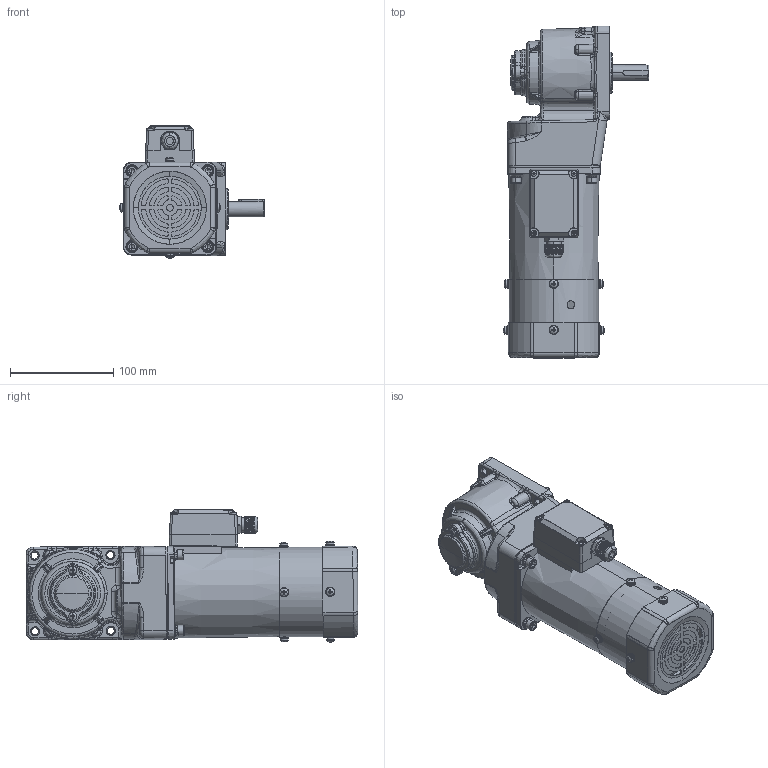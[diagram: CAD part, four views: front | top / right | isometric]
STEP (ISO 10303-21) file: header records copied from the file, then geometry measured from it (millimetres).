
FILE_DESCRIPTION (( 'STEP AP203' ), '1' );
FILE_NAME ('5RK90GU-CMFT(5GU3RT-180RT)ÐÂ.STEP', '2023-08-18T05:51:26', ( 'Windows User' ), ( 'P R C' ), 'SwSTEP 2.0', 'SolidWorks 2019', '' );
FILE_SCHEMA (( 'CONFIG_CONTROL_DESIGN' ));
Length unit declared in the file: millimetre
Products named in the file (10): ZD-5GU50RC-505-003______^5RK90GU-CMFT(5GU3RT-180RT)ÐÂ(2)_5RK90GU-CMFT(5GU3RT-180RT)ÐÂ; 5RK90GU-CMFT(5GU3RT-180RT)陔; cross recessed pan head screws gb_GB_CROSS_SCREWS_TYPE1 M4X6-6  H type-N^5RK90GU-CMFT(5GU3RT-180RT)ÐÂ(2)_5RK90GU-CMFT(5GU3RT-180RT)ÐÂ; 5RK90GU-CMFT(5GU3RT-180RT)陔(2)^5RK90GU-CMFT(5GU3RT-180RT)陔; 90RT____________^5RK90GU-CMFT(5GU3RT-180RT)ÐÂ(2)_5RK90GU-CMFT(5GU3RT-180RT)ÐÂ; zd-5gu-50rc-504-001m#________ 2021-12-07 - ____^5RK90GU-CMFT(5GU3RT-180RT)ÐÂ(2)_5RK90GU-CMFT(5GU3RT-180RT)ÐÂ; hexagon socket head cap screws gb_GB_FASTENER_SCREWS_HSHCS M5X12-N^5RK90GU-CMFT(5GU3RT-180RT)ÐÂ(2)_5RK90GU-CMFT(5GU3RT-180RT)ÐÂ; 90____^5RK90GU-CMFT(5GU3RT-180RT)陔(2)_5RK90GU-CMFT(5GU3RT-180RT)陔; 5RK90GU-CMFT(5GU3RT-180RT)^5RK90GU-CMFT(5GU3RT-180RT)ÐÂ(2)_5RK90GU-CMFT(5GU3RT-180RT)ÐÂ; 90__________^5RK90GU-CMFT(5GU3RT-180RT)陔(2)_5RK90GU-CMFT(5GU3RT-180RT)陔
Assembly tree (13 placements, depth 3):
  5RK90GU-CMFT(5GU3RT-180RT)陔
    5RK90GU-CMFT(5GU3RT-180RT)陔(2)^5RK90GU-CMFT(5GU3RT-180RT)陔
      zd-5gu-50rc-504-001m#________ 2021-12-07 - ____^5RK90GU-CMFT(5GU3RT-180RT)ÐÂ(2)_5RK90GU-CMFT(5GU3RT-180RT)ÐÂ
      90__________^5RK90GU-CMFT(5GU3RT-180RT)陔(2)_5RK90GU-CMFT(5GU3RT-180RT)陔
      90____^5RK90GU-CMFT(5GU3RT-180RT)陔(2)_5RK90GU-CMFT(5GU3RT-180RT)陔
      ZD-5GU50RC-505-003______^5RK90GU-CMFT(5GU3RT-180RT)ÐÂ(2)_5RK90GU-CMFT(5GU3RT-180RT)ÐÂ
      90RT____________^5RK90GU-CMFT(5GU3RT-180RT)ÐÂ(2)_5RK90GU-CMFT(5GU3RT-180RT)ÐÂ
      hexagon socket head cap screws gb_GB_FASTENER_SCREWS_HSHCS M5X12-N^5RK90GU-CMFT(5GU3RT-180RT)ÐÂ(2)_5RK90GU-CMFT(5GU3RT-180RT)ÐÂ  x4
      cross recessed pan head screws gb_GB_CROSS_SCREWS_TYPE1 M4X6-6  H type-N^5RK90GU-CMFT(5GU3RT-180RT)ÐÂ(2)_5RK90GU-CMFT(5GU3RT-180RT)ÐÂ  x2
      5RK90GU-CMFT(5GU3RT-180RT)^5RK90GU-CMFT(5GU3RT-180RT)ÐÂ(2)_5RK90GU-CMFT(5GU3RT-180RT)ÐÂ
Bounding box: 141.06 x 321.96 x 128.48 mm (x, y, z)
Volume: 1737479.6 mm3; surface area: 270450.6 mm2
Topology: 62 solids, 62 shells, 3161 faces, 7901 edges, 4803 vertices
Faces by surface type: cylinder 902, plane 886, cone 707, bspline 564, torus 92, sphere 10
Entity records: 124152 total; most frequent: CARTESIAN_POINT 54751, ORIENTED_EDGE 15044, DIRECTION 13415, EDGE_CURVE 7522, AXIS2_PLACEMENT_3D 5342, VERTEX_POINT 4661, EDGE_LOOP 3247, FACE_OUTER_BOUND 3061
